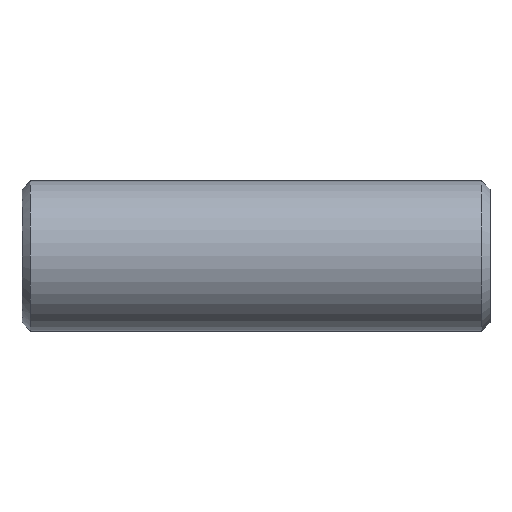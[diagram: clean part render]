
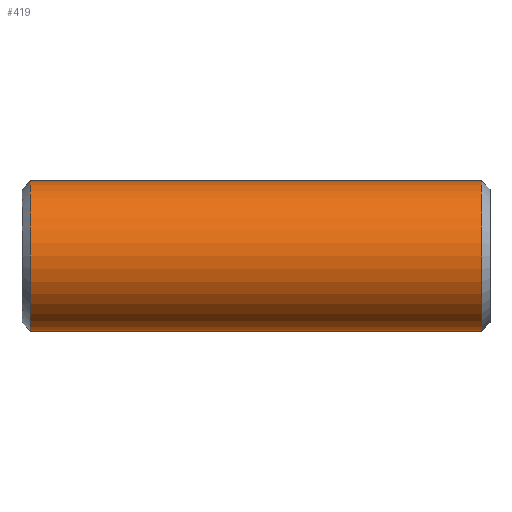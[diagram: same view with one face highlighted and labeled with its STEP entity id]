
A CAD part, front view. The second image highlights one B-rep face of the part: STEP entity #419.
In plain terms, the highlighted cylindrical face has radius 9 mm (diameter 18 mm), a partial arc.
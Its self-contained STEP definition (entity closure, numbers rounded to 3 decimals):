
#231=CARTESIAN_POINT('Vertex',(1.,0.,-9.)) ;
#238=CARTESIAN_POINT('Vertex',(1.,0.,9.)) ;
#267=CARTESIAN_POINT('Axis2P3D Location',(1.,0.,0.)) ;
#271=CARTESIAN_POINT('Vertex',(1.,-9.,0.)) ;
#274=CARTESIAN_POINT('Axis2P3D Location',(1.,0.,0.)) ;
#359=CARTESIAN_POINT('Line Origine',(56.,0.,9.)) ;
#363=CARTESIAN_POINT('Vertex',(55.,0.,9.)) ;
#377=CARTESIAN_POINT('Vertex',(55.,0.,-9.)) ;
#380=CARTESIAN_POINT('Line Origine',(56.,0.,-9.)) ;
#394=CARTESIAN_POINT('Axis2P3D Location',(56.,0.,0.)) ;
#399=CARTESIAN_POINT('Axis2P3D Location',(55.,0.,0.)) ;
#403=CARTESIAN_POINT('Vertex',(55.,-9.,0.)) ;
#406=CARTESIAN_POINT('Axis2P3D Location',(55.,0.,0.)) ;
#268=DIRECTION('Axis2P3D Direction',(1.,0.,-0.)) ;
#275=DIRECTION('Axis2P3D Direction',(1.,0.,-0.)) ;
#360=DIRECTION('Vector Direction',(-1.,0.,0.)) ;
#381=DIRECTION('Vector Direction',(-1.,0.,0.)) ;
#395=DIRECTION('Axis2P3D Direction',(-1.,-0.,-0.)) ;
#396=DIRECTION('Axis2P3D XDirection',(0.,0.,-1.)) ;
#400=DIRECTION('Axis2P3D Direction',(-1.,-0.,-0.)) ;
#407=DIRECTION('Axis2P3D Direction',(-1.,-0.,-0.)) ;
#269=AXIS2_PLACEMENT_3D('Circle Axis2P3D',#267,#268,$) ;
#276=AXIS2_PLACEMENT_3D('Circle Axis2P3D',#274,#275,$) ;
#397=AXIS2_PLACEMENT_3D('Cylinder Axis2P3D',#394,#395,#396) ;
#401=AXIS2_PLACEMENT_3D('Circle Axis2P3D',#399,#400,$) ;
#408=AXIS2_PLACEMENT_3D('Circle Axis2P3D',#406,#407,$) ;
#412=ORIENTED_EDGE('',*,*,#384,.T.) ;
#413=ORIENTED_EDGE('',*,*,#405,.F.) ;
#414=ORIENTED_EDGE('',*,*,#410,.F.) ;
#415=ORIENTED_EDGE('',*,*,#365,.T.) ;
#416=ORIENTED_EDGE('',*,*,#278,.T.) ;
#417=ORIENTED_EDGE('',*,*,#273,.T.) ;
#361=VECTOR('Line Direction',#360,1.) ;
#382=VECTOR('Line Direction',#381,1.) ;
#419=ADVANCED_FACE('352-12X56',(#418),#398,.T.) ;
#270=CIRCLE('generated circle',#269,9.) ;
#277=CIRCLE('generated circle',#276,9.) ;
#402=CIRCLE('generated circle',#401,9.) ;
#409=CIRCLE('generated circle',#408,9.) ;
#398=CYLINDRICAL_SURFACE('generated cylinder',#397,9.) ;
#273=EDGE_CURVE('',#272,#232,#270,.T.) ;
#278=EDGE_CURVE('',#239,#272,#277,.T.) ;
#365=EDGE_CURVE('',#364,#239,#362,.T.) ;
#384=EDGE_CURVE('',#232,#378,#383,.F.) ;
#405=EDGE_CURVE('',#404,#378,#402,.F.) ;
#410=EDGE_CURVE('',#364,#404,#409,.F.) ;
#411=EDGE_LOOP('',(#412,#413,#414,#415,#416,#417)) ;
#418=FACE_OUTER_BOUND('',#411,.T.) ;
#362=LINE('Line',#359,#361) ;
#383=LINE('Line',#380,#382) ;
#232=VERTEX_POINT('',#231) ;
#239=VERTEX_POINT('',#238) ;
#272=VERTEX_POINT('',#271) ;
#364=VERTEX_POINT('',#363) ;
#378=VERTEX_POINT('',#377) ;
#404=VERTEX_POINT('',#403) ;
